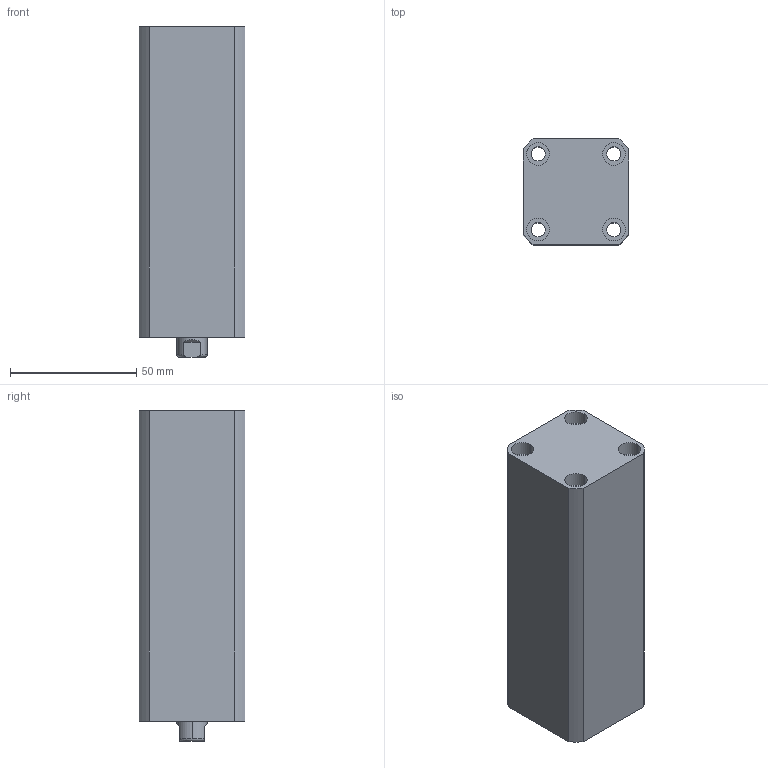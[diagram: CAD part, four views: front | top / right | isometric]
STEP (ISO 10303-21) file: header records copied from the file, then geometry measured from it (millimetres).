
FILE_DESCRIPTION (( 'STEP AP214' ), '1' );
FILE_NAME ('chtb-sd20x80n_asm.STEP', '2018-04-26T12:26:25', ( 'Windows' ), ( 'Microsoft' ), 'SwSTEP 2.0', 'SolidWorks 2015', '' );
FILE_SCHEMA (( 'AUTOMOTIVE_DESIGN' ));
Length unit declared in the file: millimetre
Products named in the file (4): QG; CHTB-SD20X80NHSG; CHTB-SD20X80NBT; chtb-sd20x80n_asm
Assembly tree (3 placements, depth 2):
  chtb-sd20x80n_asm
    CHTB-SD20X80NBT
    CHTB-SD20X80NHSG
    QG
Bounding box: 42 x 42 x 131 mm (x, y, z)
Volume: 180623.7 mm3; surface area: 51020.1 mm2
Topology: 3 solids, 3 shells, 192 faces, 499 edges, 330 vertices
Faces by surface type: cylinder 102, plane 36, torus 25, bspline 19, cone 10
Entity records: 10524 total; most frequent: CARTESIAN_POINT 5851, ORIENTED_EDGE 986, DIRECTION 903, EDGE_CURVE 493, AXIS2_PLACEMENT_3D 385, VERTEX_POINT 330, EDGE_LOOP 229, CIRCLE 206
